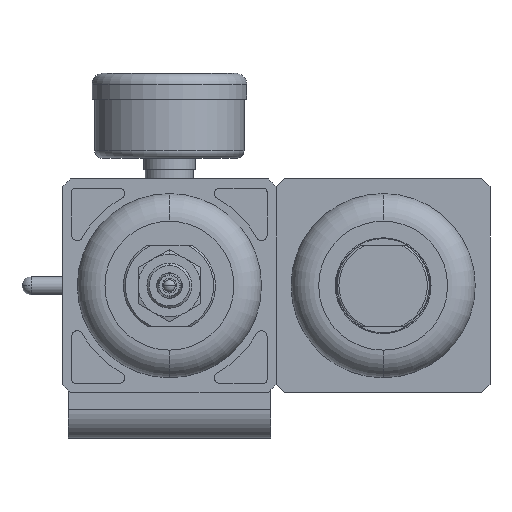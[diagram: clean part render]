
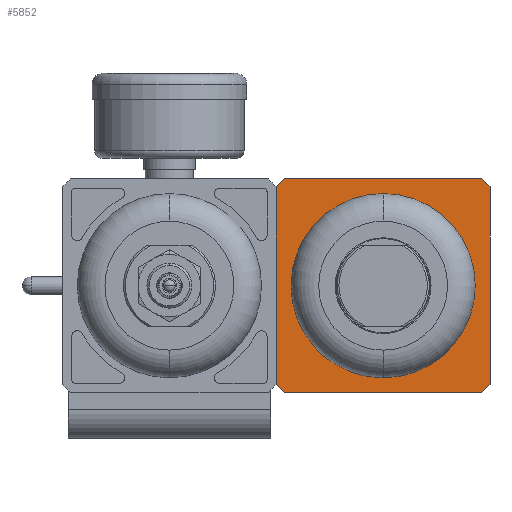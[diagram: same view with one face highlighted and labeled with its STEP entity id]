
A CAD part, front view. The second image highlights one B-rep face of the part: STEP entity #5852.
In plain terms, the highlighted planar face has unit normal (0, -1, 0).
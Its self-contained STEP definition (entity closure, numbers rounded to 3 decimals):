
#99 = EDGE_CURVE ( 'NONE', #6329, #5407, #8260, .T. ) ;
#211 = DIRECTION ( 'NONE',  ( 0.707, 0., 0.707 ) ) ;
#335 = DIRECTION ( 'NONE',  ( 0., 0., 1. ) ) ;
#513 = AXIS2_PLACEMENT_3D ( 'NONE', #3960, #15171, #6398 ) ;
#766 = LINE ( 'NONE', #1850, #1684 ) ;
#901 = FACE_BOUND ( 'NONE', #11874, .T. ) ;
#1606 = CARTESIAN_POINT ( 'NONE',  ( 2.18, -33., -29. ) ) ;
#1641 = CARTESIAN_POINT ( 'NONE',  ( 58., -33., 26.82 ) ) ;
#1684 = VECTOR ( 'NONE', #15813, 1000. ) ;
#1850 = CARTESIAN_POINT ( 'NONE',  ( 55.82, -33., -29. ) ) ;
#1895 = DIRECTION ( 'NONE',  ( 0., 1., 0. ) ) ;
#2137 = CARTESIAN_POINT ( 'NONE',  ( 29., -33., 0. ) ) ;
#2244 = EDGE_CURVE ( 'NONE', #10123, #15747, #15908, .T. ) ;
#2268 = ORIENTED_EDGE ( 'NONE', *, *, #8388, .F. ) ;
#2525 = VECTOR ( 'NONE', #3277, 1000. ) ;
#2942 = VERTEX_POINT ( 'NONE', #4683 ) ;
#3277 = DIRECTION ( 'NONE',  ( -0.707, 0., -0.707 ) ) ;
#3408 = CARTESIAN_POINT ( 'NONE',  ( 55.82, -33., 29. ) ) ;
#3725 = VECTOR ( 'NONE', #14649, 1000. ) ;
#3875 = ORIENTED_EDGE ( 'NONE', *, *, #4482, .F. ) ;
#3960 = CARTESIAN_POINT ( 'NONE',  ( 29., -33., 0. ) ) ;
#3995 = DIRECTION ( 'NONE',  ( 0., -1., 0. ) ) ;
#4164 = EDGE_CURVE ( 'NONE', #5292, #4550, #6694, .T. ) ;
#4482 = EDGE_CURVE ( 'NONE', #4550, #2942, #11417, .T. ) ;
#4550 = VERTEX_POINT ( 'NONE', #14506 ) ;
#4600 = CIRCLE ( 'NONE', #15000, 25. ) ;
#4613 = CARTESIAN_POINT ( 'NONE',  ( 2.18, -33., -29. ) ) ;
#4683 = CARTESIAN_POINT ( 'NONE',  ( 2.18, -33., 29. ) ) ;
#5067 = CARTESIAN_POINT ( 'NONE',  ( 0., -33., 26.82 ) ) ;
#5177 = AXIS2_PLACEMENT_3D ( 'NONE', #2137, #1895, #14941 ) ;
#5292 = VERTEX_POINT ( 'NONE', #6199 ) ;
#5407 = VERTEX_POINT ( 'NONE', #15799 ) ;
#5453 = ORIENTED_EDGE ( 'NONE', *, *, #13942, .F. ) ;
#5512 = LINE ( 'NONE', #12273, #5980 ) ;
#5813 = EDGE_CURVE ( 'NONE', #8698, #10123, #5512, .T. ) ;
#5852 = ADVANCED_FACE ( 'NONE', ( #7256, #901 ), #10930, .F. ) ;
#5876 = ORIENTED_EDGE ( 'NONE', *, *, #2244, .F. ) ;
#5980 = VECTOR ( 'NONE', #10854, 1000. ) ;
#6123 = VERTEX_POINT ( 'NONE', #1606 ) ;
#6199 = CARTESIAN_POINT ( 'NONE',  ( 0., -33., -26.82 ) ) ;
#6329 = VERTEX_POINT ( 'NONE', #12532 ) ;
#6398 = DIRECTION ( 'NONE',  ( 0., 0., 1. ) ) ;
#6694 = LINE ( 'NONE', #10926, #16317 ) ;
#6841 = EDGE_CURVE ( 'NONE', #2942, #8698, #15997, .T. ) ;
#6888 = EDGE_CURVE ( 'NONE', #15747, #14104, #11144, .T. ) ;
#7206 = CARTESIAN_POINT ( 'NONE',  ( 58., -33., 26.82 ) ) ;
#7256 = FACE_OUTER_BOUND ( 'NONE', #8431, .T. ) ;
#7406 = VECTOR ( 'NONE', #8603, 1000. ) ;
#7791 = VECTOR ( 'NONE', #211, 1000. ) ;
#8154 = VECTOR ( 'NONE', #11219, 1000. ) ;
#8260 = CIRCLE ( 'NONE', #513, 25. ) ;
#8388 = EDGE_CURVE ( 'NONE', #6123, #5292, #14812, .T. ) ;
#8431 = EDGE_LOOP ( 'NONE', ( #2268, #9583, #14052, #5876, #13355, #16182, #3875, #15310 ) ) ;
#8603 = DIRECTION ( 'NONE',  ( -0.707, 0., 0.707 ) ) ;
#8698 = VERTEX_POINT ( 'NONE', #3408 ) ;
#9583 = ORIENTED_EDGE ( 'NONE', *, *, #11034, .F. ) ;
#10123 = VERTEX_POINT ( 'NONE', #1641 ) ;
#10854 = DIRECTION ( 'NONE',  ( 0.707, 0., -0.707 ) ) ;
#10926 = CARTESIAN_POINT ( 'NONE',  ( 0., -33., -26.82 ) ) ;
#10930 = PLANE ( 'NONE',  #5177 ) ;
#11034 = EDGE_CURVE ( 'NONE', #14104, #6123, #766, .T. ) ;
#11144 = LINE ( 'NONE', #14828, #2525 ) ;
#11219 = DIRECTION ( 'NONE',  ( 1., 0., 0. ) ) ;
#11417 = LINE ( 'NONE', #5067, #7791 ) ;
#11874 = EDGE_LOOP ( 'NONE', ( #14167, #5453 ) ) ;
#12273 = CARTESIAN_POINT ( 'NONE',  ( 55.82, -33., 29. ) ) ;
#12532 = CARTESIAN_POINT ( 'NONE',  ( 29., -33., -25. ) ) ;
#12573 = CARTESIAN_POINT ( 'NONE',  ( 58., -33., -26.82 ) ) ;
#13355 = ORIENTED_EDGE ( 'NONE', *, *, #5813, .F. ) ;
#13942 = EDGE_CURVE ( 'NONE', #5407, #6329, #4600, .T. ) ;
#14052 = ORIENTED_EDGE ( 'NONE', *, *, #6888, .F. ) ;
#14104 = VERTEX_POINT ( 'NONE', #16448 ) ;
#14167 = ORIENTED_EDGE ( 'NONE', *, *, #99, .F. ) ;
#14506 = CARTESIAN_POINT ( 'NONE',  ( 0., -33., 26.82 ) ) ;
#14649 = DIRECTION ( 'NONE',  ( 0., 0., -1. ) ) ;
#14812 = LINE ( 'NONE', #4613, #7406 ) ;
#14828 = CARTESIAN_POINT ( 'NONE',  ( 58., -33., -26.82 ) ) ;
#14941 = DIRECTION ( 'NONE',  ( 1., 0., 0. ) ) ;
#15000 = AXIS2_PLACEMENT_3D ( 'NONE', #15456, #3995, #15532 ) ;
#15171 = DIRECTION ( 'NONE',  ( 0., -1., 0. ) ) ;
#15310 = ORIENTED_EDGE ( 'NONE', *, *, #4164, .F. ) ;
#15456 = CARTESIAN_POINT ( 'NONE',  ( 29., -33., 0. ) ) ;
#15532 = DIRECTION ( 'NONE',  ( 0., 0., 1. ) ) ;
#15747 = VERTEX_POINT ( 'NONE', #12573 ) ;
#15799 = CARTESIAN_POINT ( 'NONE',  ( 29., -33., 25. ) ) ;
#15813 = DIRECTION ( 'NONE',  ( -1., 0., 0. ) ) ;
#15908 = LINE ( 'NONE', #7206, #3725 ) ;
#15997 = LINE ( 'NONE', #16236, #8154 ) ;
#16182 = ORIENTED_EDGE ( 'NONE', *, *, #6841, .F. ) ;
#16236 = CARTESIAN_POINT ( 'NONE',  ( 2.18, -33., 29. ) ) ;
#16317 = VECTOR ( 'NONE', #335, 1000. ) ;
#16448 = CARTESIAN_POINT ( 'NONE',  ( 55.82, -33., -29. ) ) ;
